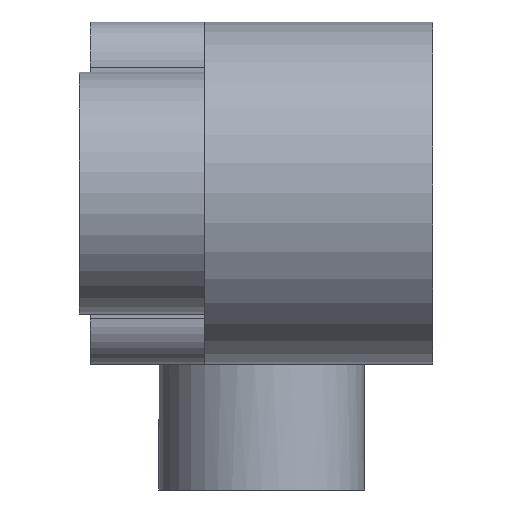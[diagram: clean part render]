
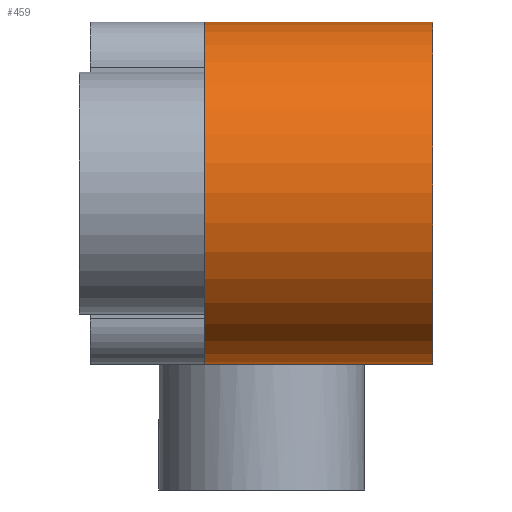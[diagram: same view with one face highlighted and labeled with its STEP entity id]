
A CAD part, left-side view. The second image highlights one B-rep face of the part: STEP entity #459.
In plain terms, the highlighted cylindrical face has radius 7.5 mm (diameter 15 mm), a partial arc.
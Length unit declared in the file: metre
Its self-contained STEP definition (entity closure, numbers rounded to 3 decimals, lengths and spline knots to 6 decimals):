
#30=LINE('',#736,#68);
#31=LINE('',#741,#69);
#68=VECTOR('',#595,1.);
#69=VECTOR('',#598,1.);
#90=CYLINDRICAL_SURFACE('',#506,0.0075);
#138=ORIENTED_EDGE('',*,*,#242,.F.);
#139=ORIENTED_EDGE('',*,*,#243,.T.);
#140=ORIENTED_EDGE('',*,*,#244,.T.);
#141=ORIENTED_EDGE('',*,*,#245,.F.);
#242=EDGE_CURVE('',#296,#297,#30,.T.);
#243=EDGE_CURVE('',#296,#298,#327,.T.);
#244=EDGE_CURVE('',#298,#299,#31,.T.);
#245=EDGE_CURVE('',#297,#299,#328,.T.);
#296=VERTEX_POINT('',#737);
#297=VERTEX_POINT('',#738);
#298=VERTEX_POINT('',#740);
#299=VERTEX_POINT('',#742);
#327=CIRCLE('',#507,0.0075);
#328=CIRCLE('',#508,0.0075);
#360=EDGE_LOOP('',(#138,#139,#140,#141));
#403=FACE_BOUND('',#360,.T.);
#459=ADVANCED_FACE('',(#403),#90,.T.);
#506=AXIS2_PLACEMENT_3D('',#735,#593,#594);
#507=AXIS2_PLACEMENT_3D('',#739,#596,#597);
#508=AXIS2_PLACEMENT_3D('',#743,#599,#600);
#593=DIRECTION('',(0.,1.,0.));
#594=DIRECTION('',(0.,0.,1.));
#595=DIRECTION('',(0.,-1.,0.));
#596=DIRECTION('',(0.,-1.,0.));
#597=DIRECTION('',(0.,0.,-1.));
#598=DIRECTION('',(0.,-1.,0.));
#599=DIRECTION('',(0.,-1.,0.));
#600=DIRECTION('',(0.,0.,-1.));
#735=CARTESIAN_POINT('',(0.05975,-0.04,0.0115));
#736=CARTESIAN_POINT('',(0.05975,-0.03,0.019));
#737=CARTESIAN_POINT('',(0.05975,-0.03,0.019));
#738=CARTESIAN_POINT('',(0.05975,-0.04,0.019));
#739=CARTESIAN_POINT('',(0.05975,-0.03,0.0115));
#740=CARTESIAN_POINT('',(0.05975,-0.03,0.004));
#741=CARTESIAN_POINT('',(0.05975,-0.03,0.004));
#742=CARTESIAN_POINT('',(0.05975,-0.04,0.004));
#743=CARTESIAN_POINT('',(0.05975,-0.04,0.0115));
